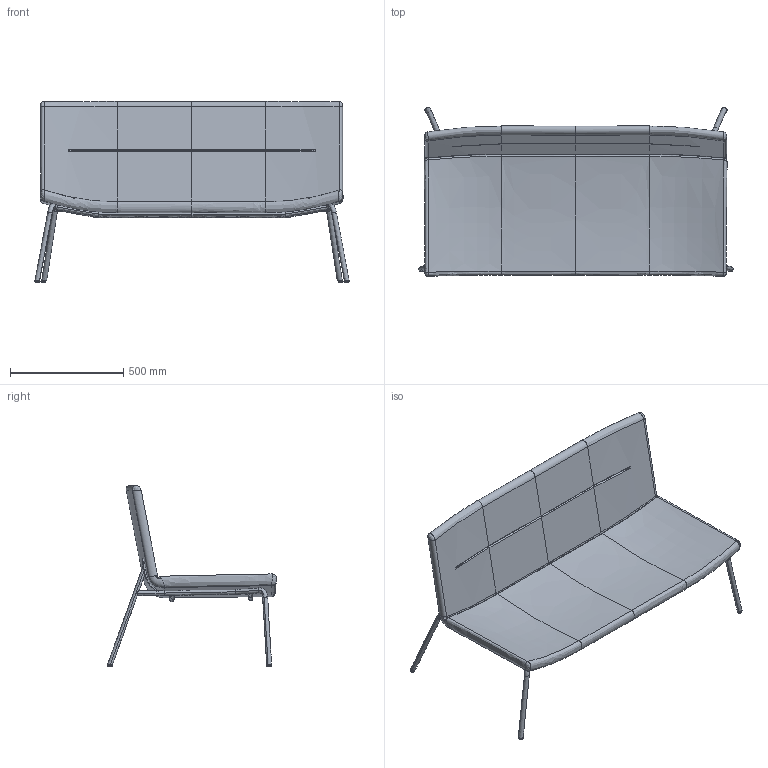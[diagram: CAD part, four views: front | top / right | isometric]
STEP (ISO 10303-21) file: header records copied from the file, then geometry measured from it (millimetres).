
FILE_DESCRIPTION(/* description */ (''),/* implementation_level */ '2;1');
FILE_NAME(/* name */ 'OSLO_L~1',/* time_stamp */ '2020-01-31T17:11:25+01:00',/* author */ (''),/* organization */ (''),/* preprocessor_version */ 'ST-DEVELOPER v16.5',/* originating_system */ '',/* authorisation */ '');
FILE_SCHEMA (('AUTOMOTIVE_DESIGN'));
Length unit declared in the file: millimetre
Products named in the file (1): Document
Bounding box: 1387.35 x 746.11 x 799.28 mm (x, y, z)
Volume: 1769786.8 mm3; surface area: 3214721.8 mm2
Topology: 9 solids, 18 shells, 244 faces, 600 edges, 350 vertices
Faces by surface type: bspline 238, plane 6
Entity records: 20557 total; most frequent: CARTESIAN_POINT 17183, ORIENTED_EDGE 1072, EDGE_CURVE 558, VERTEX_POINT 336, B_SPLINE_CURVE_WITH_KNOTS 282, EDGE_LOOP 262, ADVANCED_FACE 244, FACE_OUTER_BOUND 244
